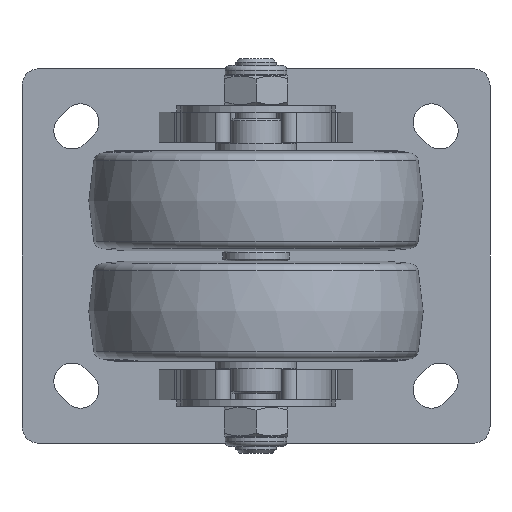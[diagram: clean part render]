
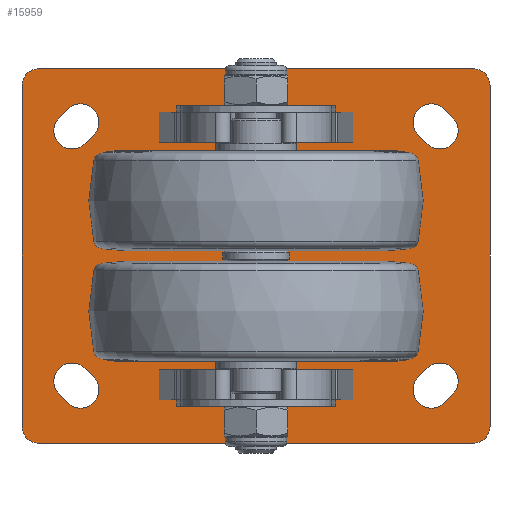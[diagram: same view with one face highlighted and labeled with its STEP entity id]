
A CAD part, front view. The second image highlights one B-rep face of the part: STEP entity #15959.
In plain terms, the highlighted planar face has unit normal (0, -1, 0).
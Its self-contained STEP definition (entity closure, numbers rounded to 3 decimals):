
#1627=FACE_BOUND('',#3054,.T.);
#1628=FACE_BOUND('',#3055,.T.);
#1629=FACE_BOUND('',#3056,.T.);
#1630=FACE_BOUND('',#3057,.T.);
#1740=PLANE('',#16925);
#2144=FACE_OUTER_BOUND('',#3053,.T.);
#3053=EDGE_LOOP('',(#10260,#10261,#10262,#10263,#10264,#10265,#10266,#10267));
#3054=EDGE_LOOP('',(#10268,#10269,#10270,#10271));
#3055=EDGE_LOOP('',(#10272,#10273,#10274,#10275));
#3056=EDGE_LOOP('',(#10276,#10277,#10278,#10279));
#3057=EDGE_LOOP('',(#10280,#10281,#10282,#10283));
#4035=LINE('',#20650,#4918);
#4039=LINE('',#20661,#4922);
#4043=LINE('',#20674,#4926);
#4047=LINE('',#20685,#4930);
#4051=LINE('',#20698,#4934);
#4055=LINE('',#20709,#4938);
#4059=LINE('',#20722,#4942);
#4063=LINE('',#20733,#4946);
#4067=LINE('',#20746,#4950);
#4071=LINE('',#20758,#4954);
#4075=LINE('',#20770,#4958);
#4079=LINE('',#20781,#4962);
#4918=VECTOR('',#17847,10.);
#4922=VECTOR('',#17859,10.);
#4926=VECTOR('',#17871,10.);
#4930=VECTOR('',#17883,10.);
#4934=VECTOR('',#17895,10.);
#4938=VECTOR('',#17907,10.);
#4942=VECTOR('',#17919,10.);
#4946=VECTOR('',#17931,10.);
#4950=VECTOR('',#17943,10.);
#4954=VECTOR('',#17955,10.);
#4958=VECTOR('',#17967,10.);
#4962=VECTOR('',#17979,10.);
#5799=CIRCLE('',#16877,5.5);
#5801=CIRCLE('',#16881,5.5);
#5803=CIRCLE('',#16885,5.5);
#5805=CIRCLE('',#16889,5.5);
#5807=CIRCLE('',#16893,5.5);
#5809=CIRCLE('',#16897,5.5);
#5811=CIRCLE('',#16901,5.5);
#5813=CIRCLE('',#16905,5.5);
#5815=CIRCLE('',#16909,5.);
#5817=CIRCLE('',#16913,5.);
#5819=CIRCLE('',#16917,5.);
#5821=CIRCLE('',#16921,5.);
#6151=VERTEX_POINT('',#20640);
#6152=VERTEX_POINT('',#20641);
#6155=VERTEX_POINT('',#20649);
#6157=VERTEX_POINT('',#20655);
#6159=VERTEX_POINT('',#20664);
#6160=VERTEX_POINT('',#20665);
#6163=VERTEX_POINT('',#20673);
#6165=VERTEX_POINT('',#20679);
#6167=VERTEX_POINT('',#20688);
#6168=VERTEX_POINT('',#20689);
#6171=VERTEX_POINT('',#20697);
#6173=VERTEX_POINT('',#20703);
#6175=VERTEX_POINT('',#20712);
#6176=VERTEX_POINT('',#20713);
#6179=VERTEX_POINT('',#20721);
#6181=VERTEX_POINT('',#20727);
#6183=VERTEX_POINT('',#20736);
#6184=VERTEX_POINT('',#20737);
#6187=VERTEX_POINT('',#20745);
#6189=VERTEX_POINT('',#20751);
#6191=VERTEX_POINT('',#20757);
#6193=VERTEX_POINT('',#20763);
#6195=VERTEX_POINT('',#20769);
#6197=VERTEX_POINT('',#20775);
#7745=EDGE_CURVE('',#6151,#6152,#5799,.T.);
#7749=EDGE_CURVE('',#6155,#6151,#4035,.T.);
#7752=EDGE_CURVE('',#6157,#6155,#5801,.T.);
#7755=EDGE_CURVE('',#6152,#6157,#4039,.T.);
#7757=EDGE_CURVE('',#6159,#6160,#5803,.T.);
#7761=EDGE_CURVE('',#6163,#6159,#4043,.T.);
#7764=EDGE_CURVE('',#6165,#6163,#5805,.T.);
#7767=EDGE_CURVE('',#6160,#6165,#4047,.T.);
#7769=EDGE_CURVE('',#6167,#6168,#5807,.T.);
#7773=EDGE_CURVE('',#6171,#6167,#4051,.T.);
#7776=EDGE_CURVE('',#6173,#6171,#5809,.T.);
#7779=EDGE_CURVE('',#6168,#6173,#4055,.T.);
#7781=EDGE_CURVE('',#6175,#6176,#5811,.T.);
#7785=EDGE_CURVE('',#6179,#6175,#4059,.T.);
#7788=EDGE_CURVE('',#6181,#6179,#5813,.T.);
#7791=EDGE_CURVE('',#6176,#6181,#4063,.T.);
#7793=EDGE_CURVE('',#6183,#6184,#5815,.T.);
#7797=EDGE_CURVE('',#6187,#6183,#4067,.T.);
#7800=EDGE_CURVE('',#6189,#6187,#5817,.T.);
#7803=EDGE_CURVE('',#6191,#6189,#4071,.T.);
#7806=EDGE_CURVE('',#6193,#6191,#5819,.T.);
#7809=EDGE_CURVE('',#6195,#6193,#4075,.T.);
#7812=EDGE_CURVE('',#6197,#6195,#5821,.T.);
#7815=EDGE_CURVE('',#6184,#6197,#4079,.T.);
#10260=ORIENTED_EDGE('',*,*,#7815,.F.);
#10261=ORIENTED_EDGE('',*,*,#7793,.F.);
#10262=ORIENTED_EDGE('',*,*,#7797,.F.);
#10263=ORIENTED_EDGE('',*,*,#7800,.F.);
#10264=ORIENTED_EDGE('',*,*,#7803,.F.);
#10265=ORIENTED_EDGE('',*,*,#7806,.F.);
#10266=ORIENTED_EDGE('',*,*,#7809,.F.);
#10267=ORIENTED_EDGE('',*,*,#7812,.F.);
#10268=ORIENTED_EDGE('',*,*,#7791,.F.);
#10269=ORIENTED_EDGE('',*,*,#7781,.F.);
#10270=ORIENTED_EDGE('',*,*,#7785,.F.);
#10271=ORIENTED_EDGE('',*,*,#7788,.F.);
#10272=ORIENTED_EDGE('',*,*,#7779,.F.);
#10273=ORIENTED_EDGE('',*,*,#7769,.F.);
#10274=ORIENTED_EDGE('',*,*,#7773,.F.);
#10275=ORIENTED_EDGE('',*,*,#7776,.F.);
#10276=ORIENTED_EDGE('',*,*,#7767,.F.);
#10277=ORIENTED_EDGE('',*,*,#7757,.F.);
#10278=ORIENTED_EDGE('',*,*,#7761,.F.);
#10279=ORIENTED_EDGE('',*,*,#7764,.F.);
#10280=ORIENTED_EDGE('',*,*,#7755,.F.);
#10281=ORIENTED_EDGE('',*,*,#7745,.F.);
#10282=ORIENTED_EDGE('',*,*,#7749,.F.);
#10283=ORIENTED_EDGE('',*,*,#7752,.F.);
#15959=ADVANCED_FACE('',(#2144,#1627,#1628,#1629,#1630),#1740,.F.);
#16877=AXIS2_PLACEMENT_3D('',#20642,#17839,#17840);
#16881=AXIS2_PLACEMENT_3D('',#20656,#17852,#17853);
#16885=AXIS2_PLACEMENT_3D('',#20666,#17863,#17864);
#16889=AXIS2_PLACEMENT_3D('',#20680,#17876,#17877);
#16893=AXIS2_PLACEMENT_3D('',#20690,#17887,#17888);
#16897=AXIS2_PLACEMENT_3D('',#20704,#17900,#17901);
#16901=AXIS2_PLACEMENT_3D('',#20714,#17911,#17912);
#16905=AXIS2_PLACEMENT_3D('',#20728,#17924,#17925);
#16909=AXIS2_PLACEMENT_3D('',#20738,#17935,#17936);
#16913=AXIS2_PLACEMENT_3D('',#20752,#17948,#17949);
#16917=AXIS2_PLACEMENT_3D('',#20764,#17960,#17961);
#16921=AXIS2_PLACEMENT_3D('',#20776,#17972,#17973);
#16925=AXIS2_PLACEMENT_3D('',#20784,#17983,#17984);
#17839=DIRECTION('center_axis',(0.,-1.,0.));
#17840=DIRECTION('ref_axis',(-0.707,0.,0.707));
#17847=DIRECTION('',(-0.707,0.,-0.707));
#17852=DIRECTION('center_axis',(0.,-1.,0.));
#17853=DIRECTION('ref_axis',(0.707,0.,-0.707));
#17859=DIRECTION('',(0.707,0.,0.707));
#17863=DIRECTION('center_axis',(0.,-1.,0.));
#17864=DIRECTION('ref_axis',(-0.707,0.,-0.707));
#17871=DIRECTION('',(0.707,0.,-0.707));
#17876=DIRECTION('center_axis',(0.,-1.,0.));
#17877=DIRECTION('ref_axis',(0.707,0.,0.707));
#17883=DIRECTION('',(-0.707,0.,0.707));
#17887=DIRECTION('center_axis',(0.,-1.,0.));
#17888=DIRECTION('ref_axis',(-0.707,0.,0.707));
#17895=DIRECTION('',(-0.707,0.,-0.707));
#17900=DIRECTION('center_axis',(0.,-1.,0.));
#17901=DIRECTION('ref_axis',(0.707,0.,-0.707));
#17907=DIRECTION('',(0.707,0.,0.707));
#17911=DIRECTION('center_axis',(0.,-1.,0.));
#17912=DIRECTION('ref_axis',(-0.707,0.,-0.707));
#17919=DIRECTION('',(0.707,0.,-0.707));
#17924=DIRECTION('center_axis',(0.,-1.,0.));
#17925=DIRECTION('ref_axis',(0.707,0.,0.707));
#17931=DIRECTION('',(-0.707,0.,0.707));
#17935=DIRECTION('center_axis',(0.,1.,0.));
#17936=DIRECTION('ref_axis',(-1.,0.,0.));
#17943=DIRECTION('',(0.,0.,1.));
#17948=DIRECTION('center_axis',(0.,1.,0.));
#17949=DIRECTION('ref_axis',(0.,0.,-1.));
#17955=DIRECTION('',(-1.,0.,0.));
#17960=DIRECTION('center_axis',(0.,1.,0.));
#17961=DIRECTION('ref_axis',(1.,0.,0.));
#17967=DIRECTION('',(0.,0.,-1.));
#17972=DIRECTION('center_axis',(0.,1.,0.));
#17973=DIRECTION('ref_axis',(0.,0.,1.));
#17979=DIRECTION('',(1.,0.,0.));
#17983=DIRECTION('center_axis',(0.,1.,0.));
#17984=DIRECTION('ref_axis',(0.,0.,1.));
#20640=CARTESIAN_POINT('',(-58.889,0.,41.389));
#20641=CARTESIAN_POINT('',(-51.111,0.,33.611));
#20642=CARTESIAN_POINT('Origin',(-55.,0.,37.5));
#20649=CARTESIAN_POINT('',(-56.389,0.,43.889));
#20650=CARTESIAN_POINT('',(-56.389,0.,43.889));
#20655=CARTESIAN_POINT('',(-48.611,0.,36.111));
#20656=CARTESIAN_POINT('Origin',(-52.5,0.,40.));
#20661=CARTESIAN_POINT('',(-51.111,0.,33.611));
#20664=CARTESIAN_POINT('',(-56.389,0.,-43.889));
#20665=CARTESIAN_POINT('',(-48.611,0.,-36.111));
#20666=CARTESIAN_POINT('Origin',(-52.5,0.,-40.));
#20673=CARTESIAN_POINT('',(-58.889,0.,-41.389));
#20674=CARTESIAN_POINT('',(-58.889,0.,-41.389));
#20679=CARTESIAN_POINT('',(-51.111,0.,-33.611));
#20680=CARTESIAN_POINT('Origin',(-55.,0.,-37.5));
#20685=CARTESIAN_POINT('',(-48.611,0.,-36.111));
#20688=CARTESIAN_POINT('',(48.611,0.,-36.111));
#20689=CARTESIAN_POINT('',(56.389,0.,-43.889));
#20690=CARTESIAN_POINT('Origin',(52.5,0.,-40.));
#20697=CARTESIAN_POINT('',(51.111,0.,-33.611));
#20698=CARTESIAN_POINT('',(51.111,0.,-33.611));
#20703=CARTESIAN_POINT('',(58.889,0.,-41.389));
#20704=CARTESIAN_POINT('Origin',(55.,0.,-37.5));
#20709=CARTESIAN_POINT('',(56.389,0.,-43.889));
#20712=CARTESIAN_POINT('',(51.111,0.,33.611));
#20713=CARTESIAN_POINT('',(58.889,0.,41.389));
#20714=CARTESIAN_POINT('Origin',(55.,0.,37.5));
#20721=CARTESIAN_POINT('',(48.611,0.,36.111));
#20722=CARTESIAN_POINT('',(48.611,0.,36.111));
#20727=CARTESIAN_POINT('',(56.389,0.,43.889));
#20728=CARTESIAN_POINT('Origin',(52.5,0.,40.));
#20733=CARTESIAN_POINT('',(58.889,0.,41.389));
#20736=CARTESIAN_POINT('',(-70.,0.,51.));
#20737=CARTESIAN_POINT('',(-65.,0.,56.));
#20738=CARTESIAN_POINT('Origin',(-65.,0.,51.));
#20745=CARTESIAN_POINT('',(-70.,0.,-51.));
#20746=CARTESIAN_POINT('',(-70.,0.,-51.));
#20751=CARTESIAN_POINT('',(-65.,0.,-56.));
#20752=CARTESIAN_POINT('Origin',(-65.,0.,-51.));
#20757=CARTESIAN_POINT('',(65.,0.,-56.));
#20758=CARTESIAN_POINT('',(65.,0.,-56.));
#20763=CARTESIAN_POINT('',(70.,0.,-51.));
#20764=CARTESIAN_POINT('Origin',(65.,0.,-51.));
#20769=CARTESIAN_POINT('',(70.,0.,51.));
#20770=CARTESIAN_POINT('',(70.,0.,51.));
#20775=CARTESIAN_POINT('',(65.,0.,56.));
#20776=CARTESIAN_POINT('Origin',(65.,0.,51.));
#20781=CARTESIAN_POINT('',(-65.,0.,56.));
#20784=CARTESIAN_POINT('Origin',(0.,0.,0.));
